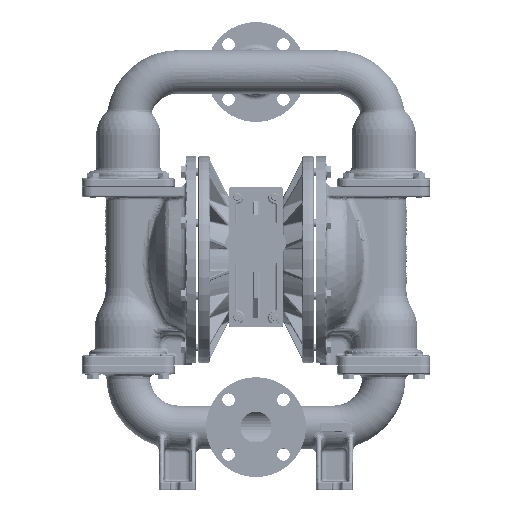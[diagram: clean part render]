
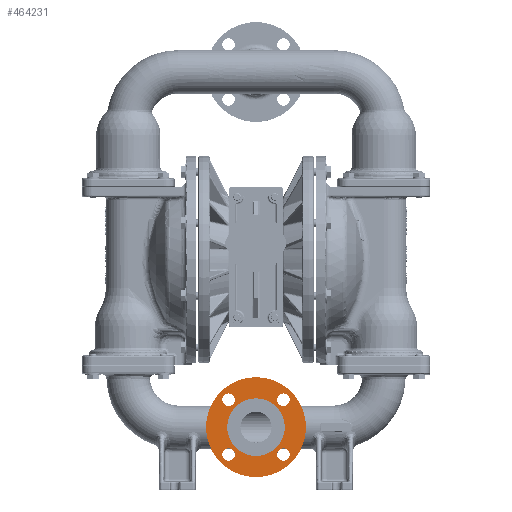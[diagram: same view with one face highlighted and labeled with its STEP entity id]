
A CAD part, top view. The second image highlights one B-rep face of the part: STEP entity #464231.
In plain terms, the highlighted planar face has unit normal (0, 0, 1).
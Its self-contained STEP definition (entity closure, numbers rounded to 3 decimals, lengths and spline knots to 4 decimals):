
#133610=CARTESIAN_POINT('',(0.,-8.385,4.74));
#133611=DIRECTION('',(0.,0.,-1.));
#133612=DIRECTION('',(0.,1.,0.));
#133613=AXIS2_PLACEMENT_3D('',#133610,#133611,#133612);
#133620=CARTESIAN_POINT('',(0.,-8.385,4.74));
#133621=DIRECTION('',(0.,0.,-1.));
#133622=DIRECTION('',(0.,1.,0.));
#133623=AXIS2_PLACEMENT_3D('',#133620,#133621,#133622);
#133625=CARTESIAN_POINT('',(0.,-8.385,4.74));
#133626=DIRECTION('',(0.,0.,1.));
#133627=DIRECTION('',(0.,1.,0.));
#133628=AXIS2_PLACEMENT_3D('',#133625,#133626,#133627);
#133630=CARTESIAN_POINT('',(1.37,-7.015,4.74));
#133631=DIRECTION('',(0.,0.,-1.));
#133632=DIRECTION('',(-1.,0.,0.));
#133633=AXIS2_PLACEMENT_3D('',#133630,#133631,#133632);
#133635=CARTESIAN_POINT('',(1.37,-7.015,4.74));
#133636=DIRECTION('',(0.,0.,-1.));
#133637=DIRECTION('',(1.,0.,0.));
#133638=AXIS2_PLACEMENT_3D('',#133635,#133636,#133637);
#133640=CARTESIAN_POINT('',(1.37,-9.755,4.74));
#133641=DIRECTION('',(0.,0.,-1.));
#133642=DIRECTION('',(-1.,0.,0.));
#133643=AXIS2_PLACEMENT_3D('',#133640,#133641,#133642);
#133645=CARTESIAN_POINT('',(1.37,-9.755,4.74));
#133646=DIRECTION('',(0.,0.,-1.));
#133647=DIRECTION('',(1.,0.,0.));
#133648=AXIS2_PLACEMENT_3D('',#133645,#133646,#133647);
#133650=CARTESIAN_POINT('',(-1.37,-9.755,4.74));
#133651=DIRECTION('',(0.,0.,-1.));
#133652=DIRECTION('',(-1.,0.,0.));
#133653=AXIS2_PLACEMENT_3D('',#133650,#133651,#133652);
#133655=CARTESIAN_POINT('',(-1.37,-9.755,4.74));
#133656=DIRECTION('',(0.,0.,-1.));
#133657=DIRECTION('',(1.,0.,0.));
#133658=AXIS2_PLACEMENT_3D('',#133655,#133656,#133657);
#133660=CARTESIAN_POINT('',(-1.37,-7.015,4.74));
#133661=DIRECTION('',(0.,0.,-1.));
#133662=DIRECTION('',(-1.,0.,0.));
#133663=AXIS2_PLACEMENT_3D('',#133660,#133661,#133662);
#133665=CARTESIAN_POINT('',(-1.37,-7.015,4.74));
#133666=DIRECTION('',(0.,0.,-1.));
#133667=DIRECTION('',(1.,0.,0.));
#133668=AXIS2_PLACEMENT_3D('',#133665,#133666,#133667);
#133670=CARTESIAN_POINT('',(0.,-8.385,4.74));
#133671=DIRECTION('',(0.,0.,-1.));
#133672=DIRECTION('',(0.,-1.,0.));
#133673=AXIS2_PLACEMENT_3D('',#133670,#133671,#133672);
#339514=CARTESIAN_POINT('',(0.,-6.945,4.74));
#339516=VERTEX_POINT('',#339514);
#339518=CARTESIAN_POINT('',(0.,-9.825,4.74));
#339520=VERTEX_POINT('',#339518);
#339521=CARTESIAN_POINT('',(0.,-5.885,4.74));
#339522=CARTESIAN_POINT('',(0.,-10.885,4.74));
#339523=VERTEX_POINT('',#339521);
#339524=VERTEX_POINT('',#339522);
#339529=CARTESIAN_POINT('',(1.0575,-7.015,4.74));
#339530=CARTESIAN_POINT('',(1.6825,-7.015,4.74));
#339531=VERTEX_POINT('',#339529);
#339532=VERTEX_POINT('',#339530);
#339537=CARTESIAN_POINT('',(1.0575,-9.755,4.74));
#339538=CARTESIAN_POINT('',(1.6825,-9.755,4.74));
#339539=VERTEX_POINT('',#339537);
#339540=VERTEX_POINT('',#339538);
#339545=CARTESIAN_POINT('',(-1.6825,-9.755,4.74));
#339546=CARTESIAN_POINT('',(-1.0575,-9.755,4.74));
#339547=VERTEX_POINT('',#339545);
#339548=VERTEX_POINT('',#339546);
#339553=CARTESIAN_POINT('',(-1.6825,-7.015,4.74));
#339554=CARTESIAN_POINT('',(-1.0575,-7.015,4.74));
#339555=VERTEX_POINT('',#339553);
#339556=VERTEX_POINT('',#339554);
#464191=CARTESIAN_POINT('',(0.,-8.385,4.74));
#464192=DIRECTION('',(0.,0.,-1.));
#464193=DIRECTION('',(0.,-1.,0.));
#464194=AXIS2_PLACEMENT_3D('',#464191,#464192,#464193);
#464195=PLANE('',#464194);
#464196=ORIENTED_EDGE('',*,*,#464181,.T.);
#464198=ORIENTED_EDGE('',*,*,#464197,.T.);
#464199=EDGE_LOOP('',(#464196,#464198));
#464200=FACE_OUTER_BOUND('',#464199,.F.);
#464202=ORIENTED_EDGE('',*,*,#464201,.F.);
#464204=ORIENTED_EDGE('',*,*,#464203,.T.);
#464205=EDGE_LOOP('',(#464202,#464204));
#464206=FACE_BOUND('',#464205,.F.);
#464208=ORIENTED_EDGE('',*,*,#464207,.F.);
#464210=ORIENTED_EDGE('',*,*,#464209,.F.);
#464211=EDGE_LOOP('',(#464208,#464210));
#464212=FACE_BOUND('',#464211,.F.);
#464214=ORIENTED_EDGE('',*,*,#464213,.F.);
#464216=ORIENTED_EDGE('',*,*,#464215,.F.);
#464217=EDGE_LOOP('',(#464214,#464216));
#464218=FACE_BOUND('',#464217,.F.);
#464220=ORIENTED_EDGE('',*,*,#464219,.F.);
#464222=ORIENTED_EDGE('',*,*,#464221,.F.);
#464223=EDGE_LOOP('',(#464220,#464222));
#464224=FACE_BOUND('',#464223,.F.);
#464226=ORIENTED_EDGE('',*,*,#464225,.F.);
#464228=ORIENTED_EDGE('',*,*,#464227,.F.);
#464229=EDGE_LOOP('',(#464226,#464228));
#464230=FACE_BOUND('',#464229,.F.);
#464231=ADVANCED_FACE('',(#464200,#464206,#464212,#464218,#464224,#464230),
#464195,.F.);
#133614=CIRCLE('',#133613,2.5);
#133624=CIRCLE('',#133623,1.44);
#133629=CIRCLE('',#133628,1.44);
#133634=CIRCLE('',#133633,0.3125);
#133639=CIRCLE('',#133638,0.3125);
#133644=CIRCLE('',#133643,0.3125);
#133649=CIRCLE('',#133648,0.3125);
#133654=CIRCLE('',#133653,0.3125);
#133659=CIRCLE('',#133658,0.3125);
#133664=CIRCLE('',#133663,0.3125);
#133669=CIRCLE('',#133668,0.3125);
#133674=CIRCLE('',#133673,2.5);
#464181=EDGE_CURVE('',#339523,#339524,#133614,.T.);
#464197=EDGE_CURVE('',#339524,#339523,#133674,.T.);
#464201=EDGE_CURVE('',#339516,#339520,#133624,.T.);
#464203=EDGE_CURVE('',#339516,#339520,#133629,.T.);
#464207=EDGE_CURVE('',#339531,#339532,#133634,.T.);
#464209=EDGE_CURVE('',#339532,#339531,#133639,.T.);
#464213=EDGE_CURVE('',#339539,#339540,#133644,.T.);
#464215=EDGE_CURVE('',#339540,#339539,#133649,.T.);
#464219=EDGE_CURVE('',#339547,#339548,#133654,.T.);
#464221=EDGE_CURVE('',#339548,#339547,#133659,.T.);
#464225=EDGE_CURVE('',#339555,#339556,#133664,.T.);
#464227=EDGE_CURVE('',#339556,#339555,#133669,.T.);
